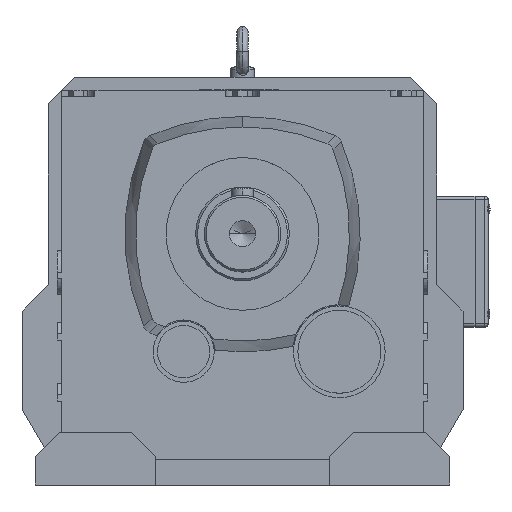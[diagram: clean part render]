
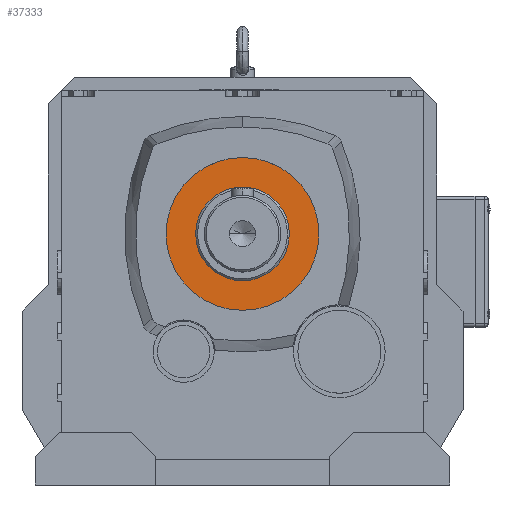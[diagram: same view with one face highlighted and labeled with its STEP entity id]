
A CAD part, top view. The second image highlights one B-rep face of the part: STEP entity #37333.
In plain terms, the highlighted planar face has unit normal (0, 0, 1).
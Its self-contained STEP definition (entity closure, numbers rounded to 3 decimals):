
#157 = EDGE_CURVE ( 'NONE', #42209, #17821, #19012, .T. ) ;
#1255 = AXIS2_PLACEMENT_3D ( 'NONE', #36152, #40172, #43433 ) ;
#1961 = DIRECTION ( 'NONE',  ( 0., 1., 0. ) ) ;
#1969 = DIRECTION ( 'NONE',  ( 0., 0., 1. ) ) ;
#2134 = PLANE ( 'NONE',  #15779 ) ;
#4392 = DIRECTION ( 'NONE',  ( 0., 0., 1. ) ) ;
#8562 = AXIS2_PLACEMENT_3D ( 'NONE', #32590, #4392, #11979 ) ;
#10065 = VERTEX_POINT ( 'NONE', #10128 ) ;
#10128 = CARTESIAN_POINT ( 'NONE',  ( -35., 0., 175. ) ) ;
#11636 = ORIENTED_EDGE ( 'NONE', *, *, #157, .T. ) ;
#11979 = DIRECTION ( 'NONE',  ( 1., 0., 0. ) ) ;
#12061 = AXIS2_PLACEMENT_3D ( 'NONE', #41025, #23046, #1961 ) ;
#14406 = CIRCLE ( 'NONE', #1255, 35. ) ;
#15779 = AXIS2_PLACEMENT_3D ( 'NONE', #37311, #1969, #20101 ) ;
#17703 = CARTESIAN_POINT ( 'NONE',  ( 0., 21.45, 175. ) ) ;
#17821 = VERTEX_POINT ( 'NONE', #17703 ) ;
#17838 = CARTESIAN_POINT ( 'NONE',  ( 0., -21.45, 175. ) ) ;
#17931 = EDGE_CURVE ( 'NONE', #10065, #19714, #14406, .T. ) ;
#17950 = ORIENTED_EDGE ( 'NONE', *, *, #30672, .T. ) ;
#19012 = CIRCLE ( 'NONE', #12061, 21.45 ) ;
#19714 = VERTEX_POINT ( 'NONE', #31380 ) ;
#20101 = DIRECTION ( 'NONE',  ( 1., 0., 0. ) ) ;
#20746 = DIRECTION ( 'NONE',  ( 0., 1., 0. ) ) ;
#23046 = DIRECTION ( 'NONE',  ( 0., 0., -1. ) ) ;
#23231 = EDGE_CURVE ( 'NONE', #19714, #10065, #24534, .T. ) ;
#24534 = CIRCLE ( 'NONE', #8562, 35. ) ;
#27658 = FACE_OUTER_BOUND ( 'NONE', #38720, .T. ) ;
#27848 = DIRECTION ( 'NONE',  ( 0., 0., -1. ) ) ;
#28236 = ORIENTED_EDGE ( 'NONE', *, *, #17931, .T. ) ;
#29306 = ORIENTED_EDGE ( 'NONE', *, *, #23231, .T. ) ;
#30672 = EDGE_CURVE ( 'NONE', #17821, #42209, #44666, .T. ) ;
#31380 = CARTESIAN_POINT ( 'NONE',  ( 35., 0., 175. ) ) ;
#32017 = EDGE_LOOP ( 'NONE', ( #17950, #11636 ) ) ;
#32590 = CARTESIAN_POINT ( 'NONE',  ( 0., 0., 175. ) ) ;
#36152 = CARTESIAN_POINT ( 'NONE',  ( 0., 0., 175. ) ) ;
#37311 = CARTESIAN_POINT ( 'NONE',  ( 0., 0., 175. ) ) ;
#37333 = ADVANCED_FACE ( 'NONE', ( #27658, #38218 ), #2134, .T. ) ;
#38218 = FACE_BOUND ( 'NONE', #32017, .T. ) ;
#38416 = CARTESIAN_POINT ( 'NONE',  ( 0., 0., 175. ) ) ;
#38720 = EDGE_LOOP ( 'NONE', ( #29306, #28236 ) ) ;
#40172 = DIRECTION ( 'NONE',  ( 0., 0., 1. ) ) ;
#41025 = CARTESIAN_POINT ( 'NONE',  ( 0., 0., 175. ) ) ;
#42209 = VERTEX_POINT ( 'NONE', #17838 ) ;
#43433 = DIRECTION ( 'NONE',  ( 1., 0., 0. ) ) ;
#44666 = CIRCLE ( 'NONE', #44888, 21.45 ) ;
#44888 = AXIS2_PLACEMENT_3D ( 'NONE', #38416, #27848, #20746 ) ;
